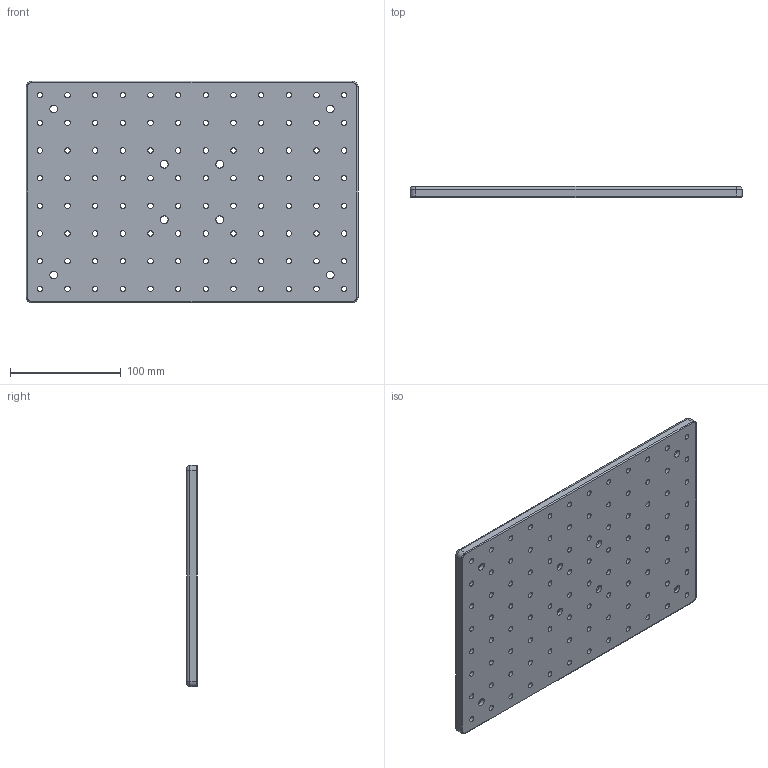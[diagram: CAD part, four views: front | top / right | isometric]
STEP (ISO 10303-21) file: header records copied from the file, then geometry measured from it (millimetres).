
FILE_DESCRIPTION (( 'STEP AP203' ), '1' );
FILE_NAME ('M-SAB-2030-10P.step', '2017-01-10T01:17:37', ( '¦K¬P' ), ( '' ), 'SwSTEP 2.0', 'SolidWorks 2012', '' );
FILE_SCHEMA (( 'CONFIG_CONTROL_DESIGN' ));
Length unit declared in the file: millimetre
Products named in the file (1): M-SAB-2030-10P
Bounding box: 300 x 9.8 x 200 mm (x, y, z)
Volume: 561285.5 mm3; surface area: 140726.3 mm2
Topology: 1 solids, 1 shells, 146 faces, 392 edges, 256 vertices
Faces by surface type: cylinder 124, plane 14, torus 8
Full cylindrical faces by diameter (mm): 5 x96, 7 x8, 11 x8
Entity records: 4637 total; most frequent: DIRECTION 830, CARTESIAN_POINT 683, ORIENTED_EDGE 560, EDGE_LOOP 474, AXIS2_PLACEMENT_3D 403, EDGE_CURVE 280, FACE_OUTER_BOUND 258, CIRCLE 256
